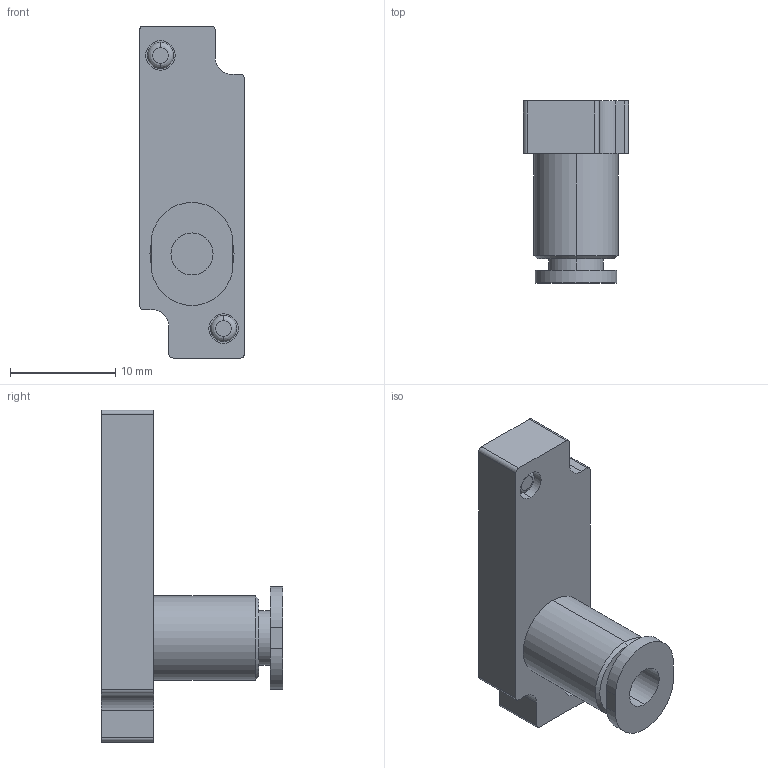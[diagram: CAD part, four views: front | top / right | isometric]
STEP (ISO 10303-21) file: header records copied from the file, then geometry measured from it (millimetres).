
FILE_DESCRIPTION( (''), '2;1');
FILE_NAME ('CVICAD02.14868.F10_Port-FJ5B_4595.stp','2020-09-01T14:04:07',(''),(''),'spGate 12.6.6','','');
FILE_SCHEMA (('AUTOMOTIVE_DESIGN'));
Length unit declared in the file: millimetre
Bounding box: 10 x 17.3 x 31.6 mm (x, y, z)
Volume: 1910.3 mm3; surface area: 1529.6 mm2
Topology: 1 solids, 1 shells, 46 faces, 106 edges, 70 vertices
Faces by surface type: plane 20, cylinder 20, bspline 6
Entity records: 2303 total; most frequent: CARTESIAN_POINT 358, DIRECTION 220, ORIENTED_EDGE 212, COLOUR_RGB 153, PRESENTATION_STYLE_ASSIGNMENT 153, STYLED_ITEM 153, EDGE_CURVE 106, DRAUGHTING_PRE_DEFINED_CURVE_FONT 106
